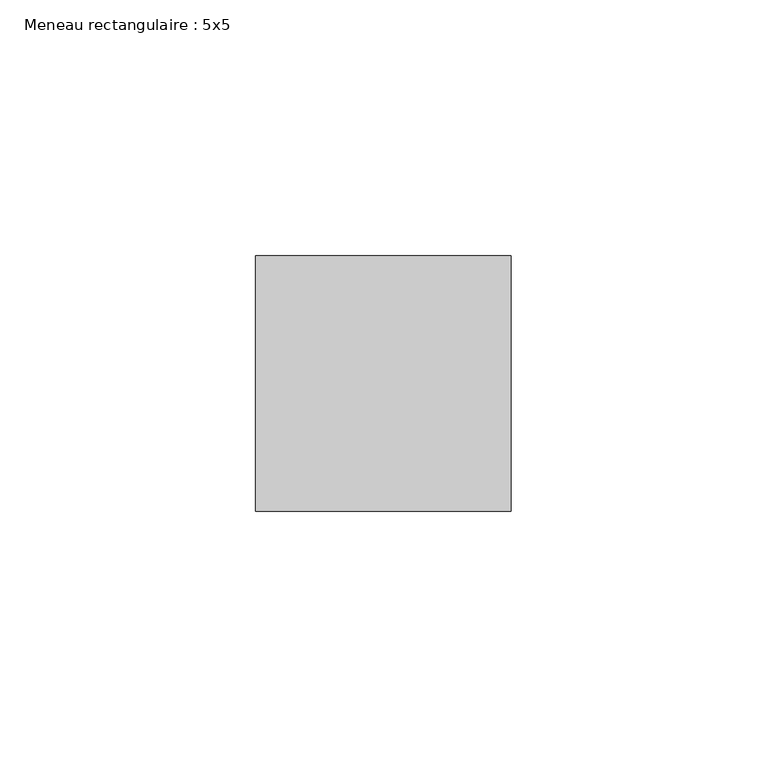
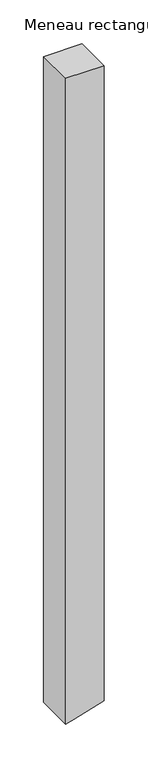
"""IFC4 building model written with IfcOpenShell, lengths in millimetres: member geometry, Meneau rectangulaire : 5x5."""

from ifc_helpers import new_model, si_unit, frame, origin, place, context, project, spatial, polyline, outline, extrude, source, transform, mapped, element, save


def meneau_rectangulaire_5x5_d9017174(model_context):
    return source(origin(), model_context, "Body", "SweptSolid", [
        extrude(outline(polyline([(0.0, 25.0), (0.0, -25.0), (-895.5156251, -25.0), (-892.3258434, -14.3673943), (-880.5156251, 25.0), (0.0, 25.0)])), frame((0.0, -25.0, 0.0), z_axis=(0.0, 1.0, 0.0), x_axis=(0.0, 0.0, 1.0)), (0.0, 0.0, 1.0), 50.0),
    ])


if __name__ == "__main__":
    model = new_model("IFC4")
    model_context = context("Model", 3, world=origin())
    ifc_project = project(units=[si_unit("LENGTHUNIT", "METRE", prefix="MILLI")], contexts=[model_context])
    site = spatial("IfcSite", under=ifc_project)
    building = spatial("IfcBuilding", under=site)
    placement = place(None, origin())
    meneau_rectangulaire_5x5_shape = meneau_rectangulaire_5x5_d9017174(model_context)
    element("IfcMember", 1, ObjectType="Meneau rectangulaire : 5x5", at=placement, inside=building, context=model_context, shape_type="MappedRepresentation", body=[
        mapped(meneau_rectangulaire_5x5_shape, transform((0.0, 0.0, 0.0), x_axis=(1.0, 0.0, 0.0), y_axis=(0.0, 1.0, 0.0), z_axis=(0.0, 0.0, 1.0))),
    ])
    save(model, "model.ifc")
